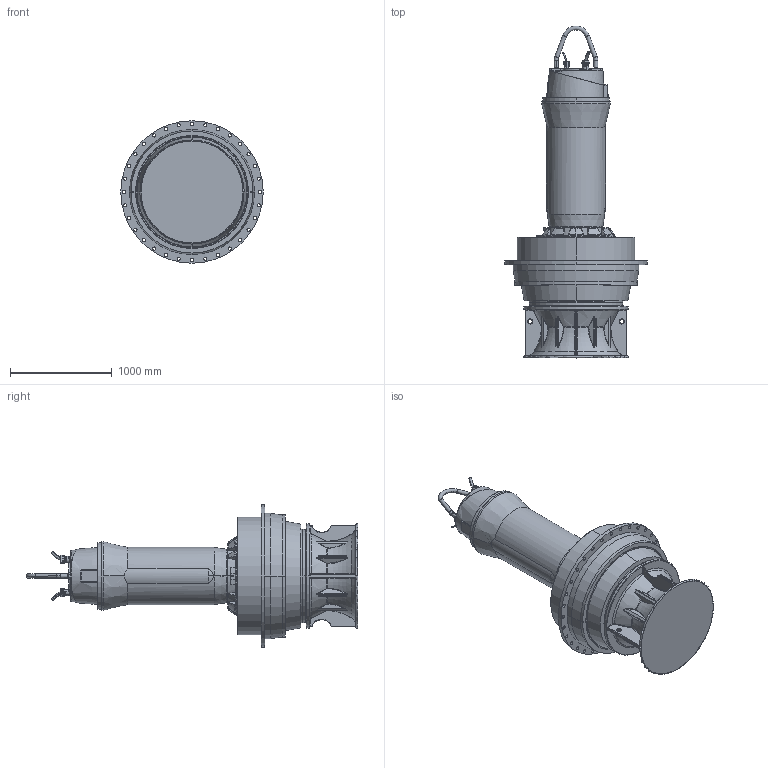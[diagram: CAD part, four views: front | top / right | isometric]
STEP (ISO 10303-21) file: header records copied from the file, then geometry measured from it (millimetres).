
FILE_DESCRIPTION (( 'STEP AP214' ), '1' );
FILE_NAME ('PE7_AFLX1203_DIN_B.STEP', '2017-05-09T06:12:18', ( '' ), ( '' ), 'SwSTEP 2.0', 'SolidWorks 2017', '' );
FILE_SCHEMA (( 'AUTOMOTIVE_DESIGN' ));
Length unit declared in the file: millimetre
Products named in the file (1): PE7_AFLX1203_DIN_B
Bounding box: 1400 x 3262.8 x 1400 mm (x, y, z)
Volume: 1380909367.3 mm3; surface area: 13504868.4 mm2
Topology: 4 solids, 23 shells, 2953 faces, 7128 edges, 4099 vertices
Faces by surface type: bspline 873, plane 669, cylinder 619, torus 373, cone 300, sphere 119
Entity records: 163360 total; most frequent: CARTESIAN_POINT 69076, ORIENTED_EDGE 13864, DIRECTION 11652, EDGE_CURVE 6932, AXIS2_PLACEMENT_3D 4824, VERTEX_POINT 4098, EDGE_LOOP 3154, UNCERTAINTY_MEASURE_WITH_UNIT 2959
